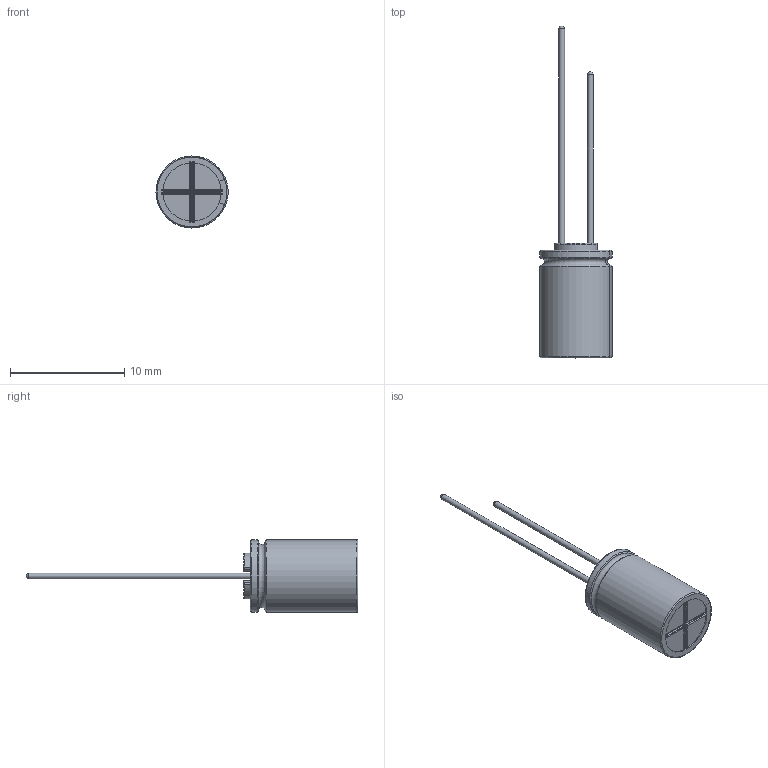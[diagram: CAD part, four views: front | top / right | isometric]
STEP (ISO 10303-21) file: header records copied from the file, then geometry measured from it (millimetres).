
FILE_DESCRIPTION(/* description */ (''),/* implementation_level */ '2;1');
FILE_NAME(/* name */ '6.3x10_Lead.stp',/* time_stamp */ '2017-09-05T13:46:40+09:00',/* author */ (''),/* organization */ (''),/* preprocessor_version */ 'ST-DEVELOPER v16',/* originating_system */ 'SIEMENS PLM Software NX 11.0',/* authorisation */ '');
FILE_SCHEMA (('AUTOMOTIVE_DESIGN { 1 0 10303 214 3 1 1 1 }'));
Length unit declared in the file: millimetre
Products named in the file (1): 6.3x10_Lead_0
Bounding box: 6.29 x 29 x 6.3 mm (x, y, z)
Volume: 297.3 mm3; surface area: 731.6 mm2
Topology: 3 solids, 3 shells, 120 faces, 296 edges, 185 vertices
Faces by surface type: cylinder 52, plane 31, torus 27, sphere 6, bspline 4
Full cylindrical faces by diameter (mm): 0.5 x2, 6.1 x2
Entity records: 4235 total; most frequent: CARTESIAN_POINT 701, DIRECTION 684, ORIENTED_EDGE 568, EDGE_CURVE 284, AXIS2_PLACEMENT_3D 283, VERTEX_POINT 180, CIRCLE 158, EDGE_LOOP 130
